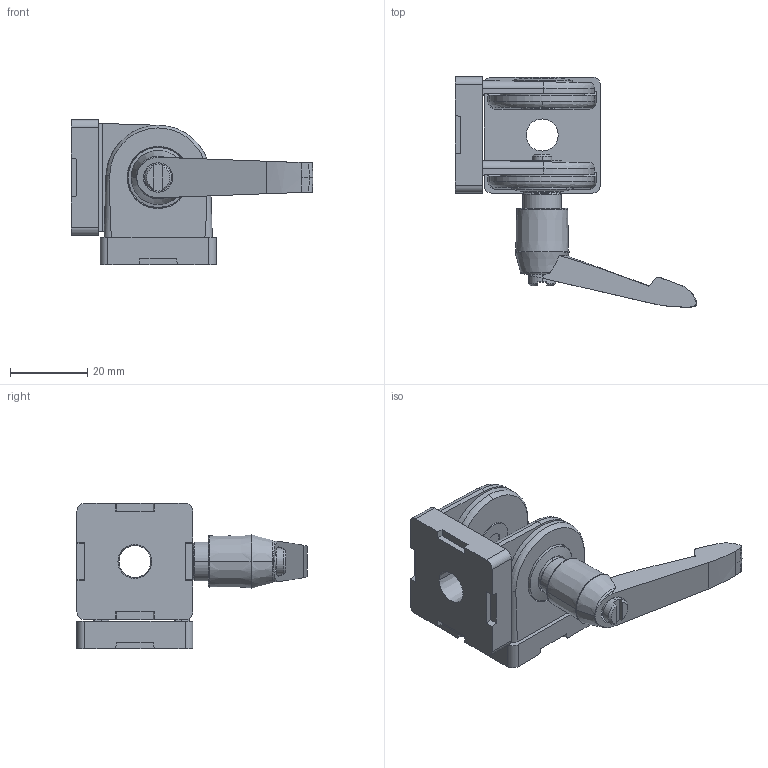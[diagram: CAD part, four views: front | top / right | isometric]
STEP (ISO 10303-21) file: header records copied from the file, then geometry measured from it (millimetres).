
FILE_DESCRIPTION (( 'STEP AP203' ), '1' );
FILE_NAME ('0106G3030KH.STEP', '2024-03-14T11:03:50', ( 'Windows-Benutzer' ), ( '' ), 'SwSTEP 2.0', 'SolidWorks 2023', '' );
FILE_SCHEMA (( 'CONFIG_CONTROL_DESIGN' ));
Length unit declared in the file: millimetre
Products named in the file (7): Gelenk6 30x30_part_6; Gelenk6 30x30_part_4; Gelenk6 30x30_part_1; Gelenk6 30x30_part_5; Gelenk6 30x30_part_2; Gelenk6 30x30_part_3; 0106G3030KH
Assembly tree (9 placements, depth 2):
  0106G3030KH
    Gelenk6 30x30_part_1
    Gelenk6 30x30_part_4  x2
    Gelenk6 30x30_part_5  x2
    Gelenk6 30x30_part_3  x2
    Gelenk6 30x30_part_2
    Gelenk6 30x30_part_6
Bounding box: 62.5 x 59.52 x 37.5 mm (x, y, z)
Volume: 24704.4 mm3; surface area: 17090.1 mm2
Topology: 9 solids, 9 shells, 473 faces, 1180 edges, 751 vertices
Faces by surface type: plane 164, cylinder 123, bspline 95, cone 89, torus 2
Entity records: 15136 total; most frequent: CARTESIAN_POINT 5653, ORIENTED_EDGE 1906, DIRECTION 1720, EDGE_CURVE 953, AXIS2_PLACEMENT_3D 660, VERTEX_POINT 609, EDGE_LOOP 420, LINE 400
